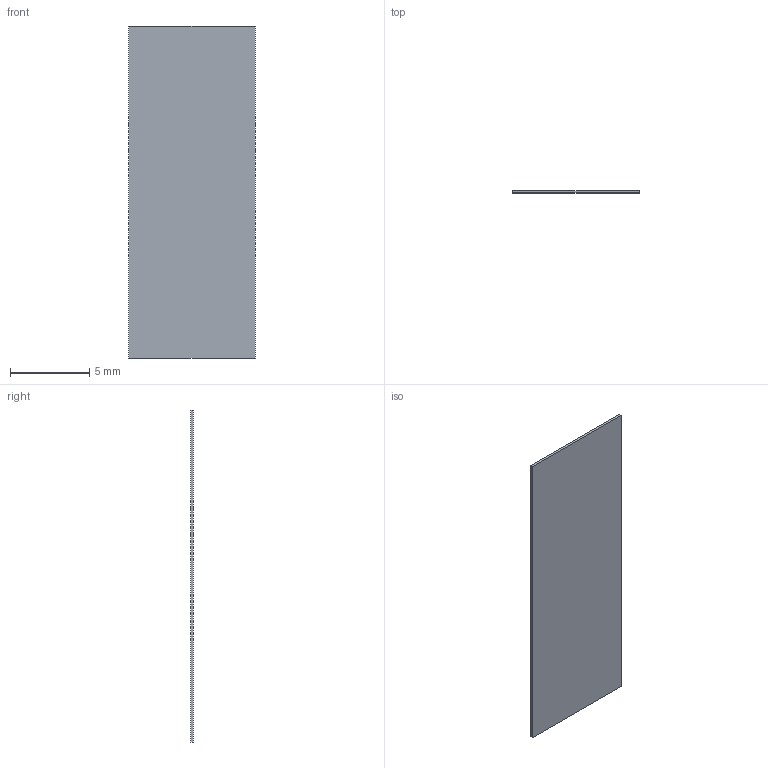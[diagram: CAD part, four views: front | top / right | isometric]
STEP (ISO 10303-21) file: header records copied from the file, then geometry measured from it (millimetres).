
FILE_DESCRIPTION(('Open CASCADE Model'),'2;1');
FILE_NAME('Open CASCADE Shape Model','2026-10-04T01:02:35',('Author'),( 'Open CASCADE'),'Open CASCADE STEP processor 8.0','Open CASCADE 8.0' ,'Unknown');
FILE_SCHEMA(('AUTOMOTIVE_DESIGN { 1 0 10303 214 1 1 1 1 }'));
Length unit declared in the file: millimetre
Products named in the file (1): Open CASCADE STEP translator 8.0 392
Bounding box: 8 x 0.15 x 21 mm (x, y, z)
Volume: 25.2 mm3; surface area: 344.7 mm2
Topology: 1 solids, 1 shells, 6 faces, 12 edges, 8 vertices
Faces by surface type: plane 6
Entity records: 322 total; most frequent: CARTESIAN_POINT 51, DIRECTION 50, LINE 36, VECTOR 36, ORIENTED_EDGE 24, PCURVE 24, DEFINITIONAL_REPRESENTATION 24, EDGE_CURVE 12
